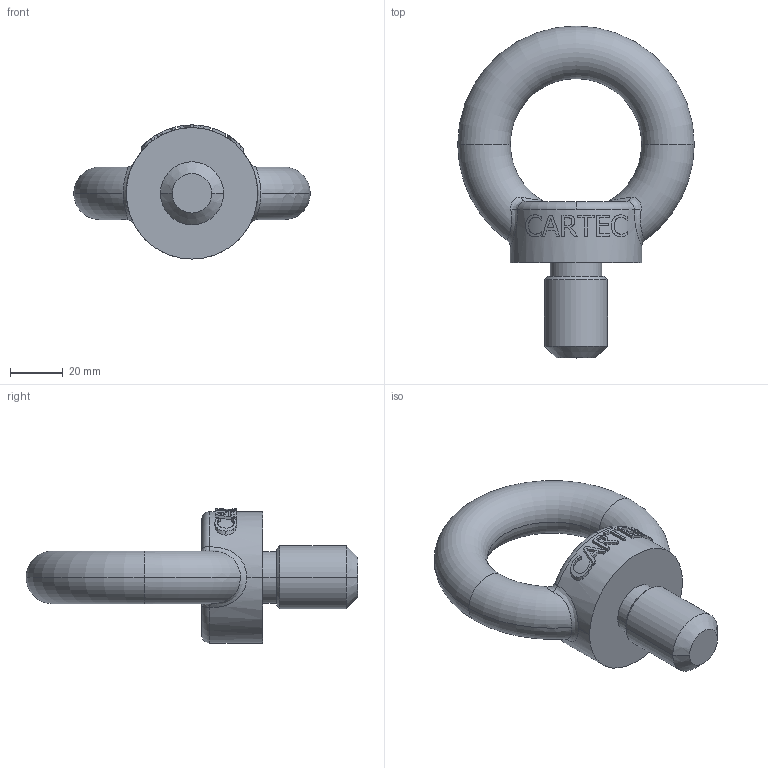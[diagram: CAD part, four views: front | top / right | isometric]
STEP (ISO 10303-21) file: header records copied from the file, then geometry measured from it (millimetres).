
FILE_DESCRIPTION(('STEP AP214'),'1');
FILE_NAME('c80324.stp','2017-03-22T15:17:06',('TraceParts'),('TraceParts S.A.'),'Spatial InterOp 3D',' ',' ');
FILE_SCHEMA(('automotive_design'));
Length unit declared in the file: millimetre
Products named in the file (1): c80324
Bounding box: 90 x 126.31 x 51 mm (x, y, z)
Volume: 113708.1 mm3; surface area: 20427.4 mm2
Topology: 1 solids, 1 shells, 129 faces, 341 edges, 222 vertices
Faces by surface type: plane 54, bspline 47, cylinder 14, torus 10, cone 4
Entity records: 6190 total; most frequent: CARTESIAN_POINT 2169, ORIENTED_EDGE 682, DIRECTION 515, EDGE_CURVE 341, VERTEX_POINT 222, AXIS2_PLACEMENT_3D 191, EDGE_LOOP 139, LINE 133
